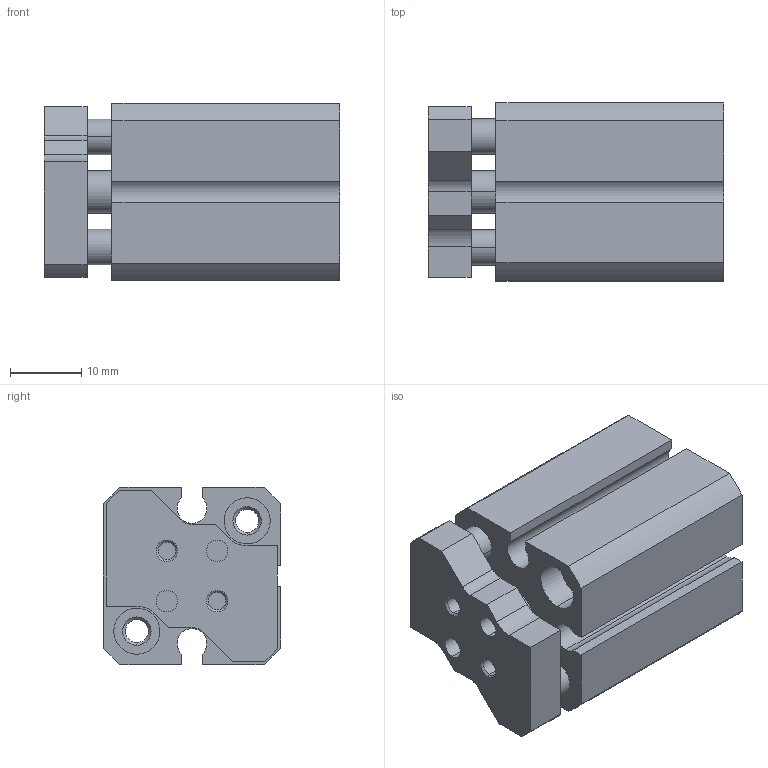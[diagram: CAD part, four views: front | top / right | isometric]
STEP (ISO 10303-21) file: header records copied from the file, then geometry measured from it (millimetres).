
FILE_DESCRIPTION (( 'STEP AP203' ), '1' );
FILE_NAME ('CCMG12-10.STEP', '2020-04-01T17:47:22', ( '' ), ( '' ), 'SwSTEP 2.0', 'SolidWorks 2019', '' );
FILE_SCHEMA (( 'CONFIG_CONTROL_DESIGN' ));
Length unit declared in the file: millimetre
Products named in the file (1): CCMG12-10
Bounding box: 41.5 x 25 x 25 mm (x, y, z)
Volume: 18484 mm3; surface area: 10895.9 mm2
Topology: 2 solids, 2 shells, 133 faces, 315 edges, 200 vertices
Faces by surface type: cylinder 64, plane 45, cone 24
Entity records: 3936 total; most frequent: DIRECTION 727, CARTESIAN_POINT 645, ORIENTED_EDGE 622, EDGE_CURVE 311, AXIS2_PLACEMENT_3D 282, VERTEX_POINT 200, LINE 163, VECTOR 163
